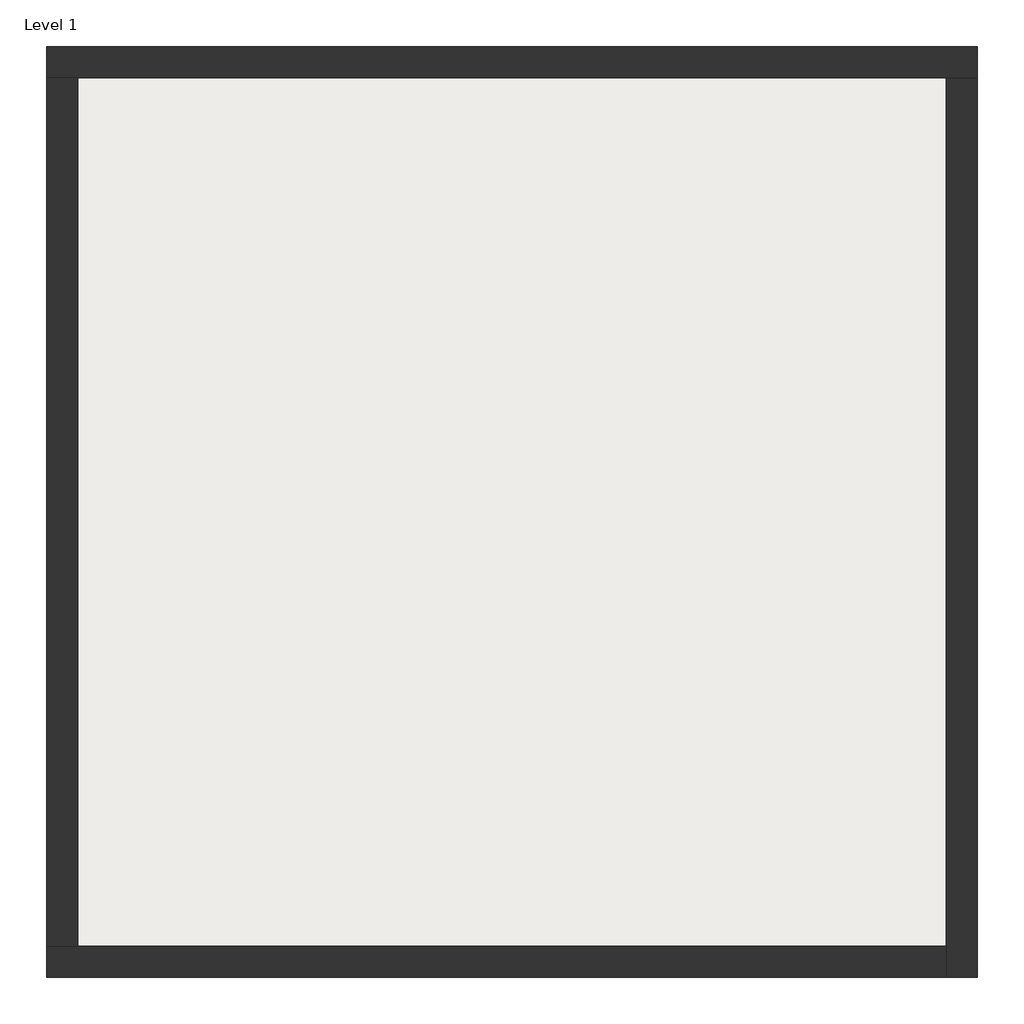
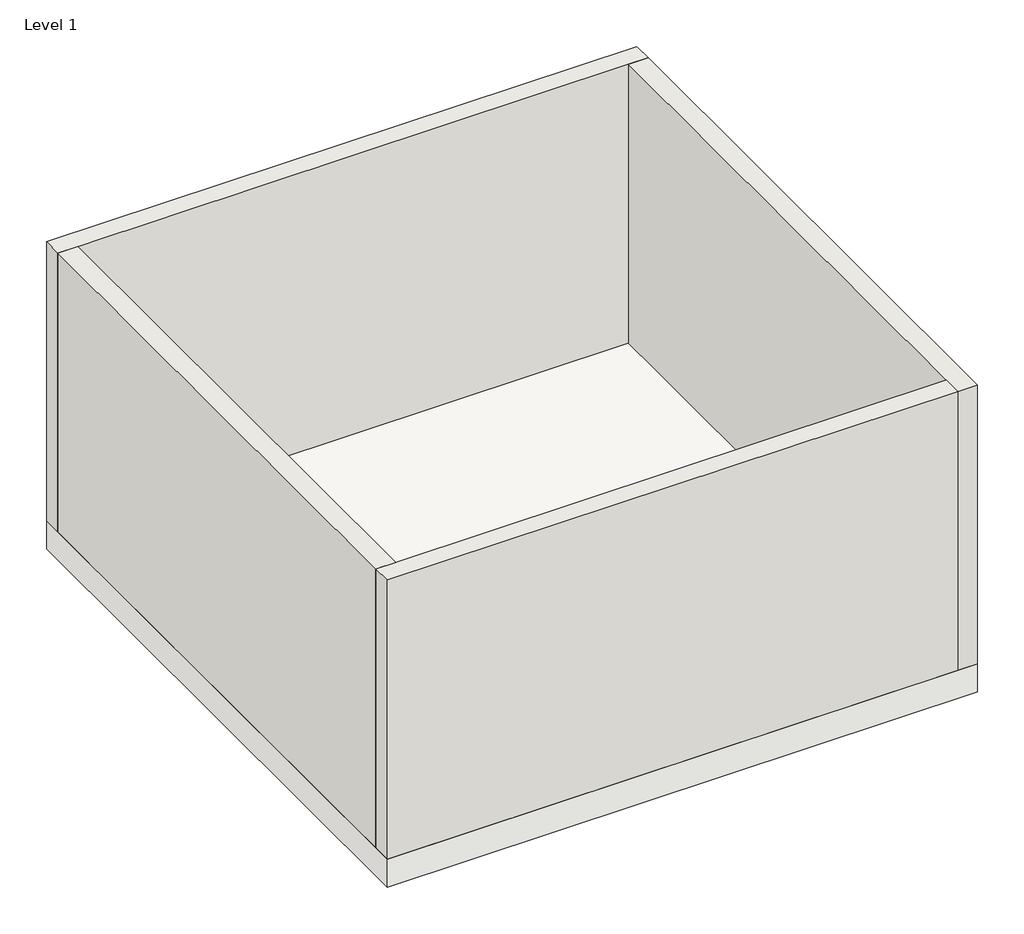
# One storey, incomplete: 4 walls, 1 slab.
"""IFC4 building model written with IfcOpenShell, lengths in millimetres."""

from ifc_helpers import new_model, si_unit, frame, origin, origin_with_axes, place, context, project, spatial, polyline, outline, extrude, faceted_brep, element, save

model = new_model("IFC4")

# Units and contexts
model_context = context("Model", 3, world=origin())
ifc_project = project(units=[si_unit("LENGTHUNIT", "METRE", prefix="MILLI")], contexts=[model_context])

# Site, building, storey
site = spatial("IfcSite", under=ifc_project)
building = spatial("IfcBuilding", under=site)
storey = spatial("IfcBuildingStorey", under=building, Name="Level 1", Elevation=0.0)

# Slab
placement = place(None, origin())
element("IfcSlab", 1, ObjectType="Generic 300mm", at=placement, inside=storey, context=model_context, shape_type="SweptSolid", body=[
    extrude(outline(polyline([(672.7789118, 6157.2774857), (672.7789118, 157.2774857), (-5327.2210882, 157.2774857), (-5327.2210882, 6157.2774857), (672.7789118, 6157.2774857)])), frame((0.0, 0.0, -300.0), z_axis=(0.0, 0.0, 1.0), x_axis=(1.0, 0.0, 0.0)), (0.0, 0.0, 1.0), 300.0),
])

# Walls
element("IfcWall", 2, ObjectType="Generic - 200mm", at=placement, inside=storey, context=model_context, shape_type="Brep", body=[
    faceted_brep([(-5327.2210882, 5957.2774857, 0.0), (-5127.2210882, 5957.2774857, 0.0), (472.7789118, 5957.2774857, 0.0), (672.7789118, 5957.2774857, 0.0), (672.7789118, 5957.2774857, 3000.0), (472.7789118, 5957.2774857, 3000.0), (-5127.2210882, 5957.2774857, 3000.0), (-5327.2210882, 5957.2774857, 3000.0), (-5327.2210882, 6157.2774857, 0.0), (-5327.2210882, 6157.2774857, 3000.0), (672.7789118, 6157.2774857, 3000.0), (672.7789118, 6157.2774857, 0.0)], [[[0, 1, 2, 3, 4, 5, 6, 7]], [[8, 9, 10, 11]], [[3, 2, 1, 0, 8, 11]], [[7, 6, 5, 4, 10, 9]], [[4, 3, 11, 10]], [[0, 7, 9, 8]]]),
])
element("IfcWall", 3, ObjectType="Generic - 200mm", at=placement, inside=storey, context=model_context, shape_type="Brep", body=[
    faceted_brep([(472.7789118, 5957.2774857, 0.0), (472.7789118, 357.2774857, 0.0), (472.7789118, 157.2774857, 0.0), (472.7789118, 157.2774857, 3000.0), (472.7789118, 357.2774857, 3000.0), (472.7789118, 5957.2774857, 3000.0), (672.7789118, 5957.2774857, 0.0), (672.7789118, 5957.2774857, 3000.0), (672.7789118, 157.2774857, 3000.0), (672.7789118, 157.2774857, 0.0)], [[[0, 1, 2, 3, 4, 5]], [[6, 7, 8, 9]], [[2, 1, 0, 6, 9]], [[5, 4, 3, 8, 7]], [[0, 5, 7, 6]], [[3, 2, 9, 8]]]),
])
element("IfcWall", 4, ObjectType="Generic - 200mm", at=placement, inside=storey, context=model_context, shape_type="Brep", body=[
    faceted_brep([(472.7789118, 357.2774857, 0.0), (-5127.2210882, 357.2774857, 0.0), (-5327.2210882, 357.2774857, 0.0), (-5327.2210882, 357.2774857, 3000.0), (-5127.2210882, 357.2774857, 3000.0), (472.7789118, 357.2774857, 3000.0), (472.7789118, 157.2774857, 0.0), (472.7789118, 157.2774857, 3000.0), (-5327.2210882, 157.2774857, 3000.0), (-5327.2210882, 157.2774857, 0.0)], [[[0, 1, 2, 3, 4, 5]], [[6, 7, 8, 9]], [[2, 1, 0, 6, 9]], [[5, 4, 3, 8, 7]], [[0, 5, 7, 6]], [[3, 2, 9, 8]]]),
])
element("IfcWall", 5, ObjectType="Generic - 200mm", at=placement, inside=storey, context=model_context, shape_type="SweptSolid", body=[
    extrude(outline(polyline([(-5127.2210882, 5957.2774857), (-5127.2210882, 357.2774857), (-5327.2210882, 357.2774857), (-5327.2210882, 5957.2774857), (-5127.2210882, 5957.2774857)])), origin_with_axes(), (0.0, 0.0, 1.0), 3000.0),
])

save(model, "model.ifc")
